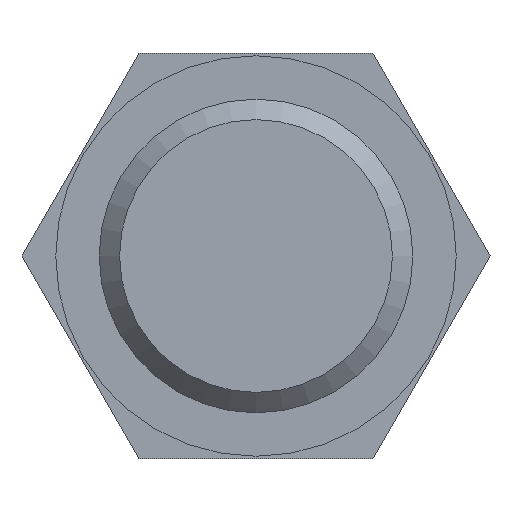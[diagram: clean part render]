
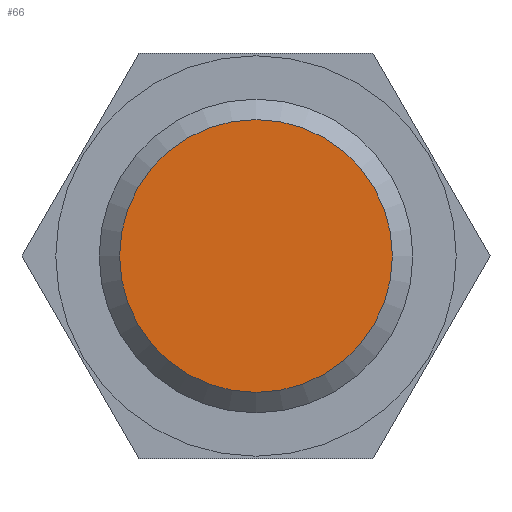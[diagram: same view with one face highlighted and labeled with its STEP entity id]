
A CAD part, left-side view. The second image highlights one B-rep face of the part: STEP entity #66.
In plain terms, the highlighted planar face has unit normal (-1, 0, 0).
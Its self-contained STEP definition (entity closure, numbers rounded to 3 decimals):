
#66 = ADVANCED_FACE( '', ( #139 ), #140, .F. );
#139 = FACE_OUTER_BOUND( '', #211, .T. );
#140 = PLANE( '', #212 );
#211 = EDGE_LOOP( '', ( #323 ) );
#212 = AXIS2_PLACEMENT_3D( '', #324, #325, #326 );
#323 = ORIENTED_EDGE( '', *, *, #402, .F. );
#324 = CARTESIAN_POINT( '', ( -23.5, 0., 0. ) );
#325 = DIRECTION( '', ( 1., 0., 0. ) );
#326 = DIRECTION( '', ( 0., 0., -1. ) );
#402 = EDGE_CURVE( '', #469, #469, #470, .T. );
#469 = VERTEX_POINT( '', #555 );
#470 = CIRCLE( '', #556, 5.723 );
#555 = CARTESIAN_POINT( '', ( -23.5, 0., -5.723 ) );
#556 = AXIS2_PLACEMENT_3D( '', #607, #608, #609 );
#607 = CARTESIAN_POINT( '', ( -23.5, 0., 0. ) );
#608 = DIRECTION( '', ( 1., 0., 0. ) );
#609 = DIRECTION( '', ( 0., 0., -1. ) );
